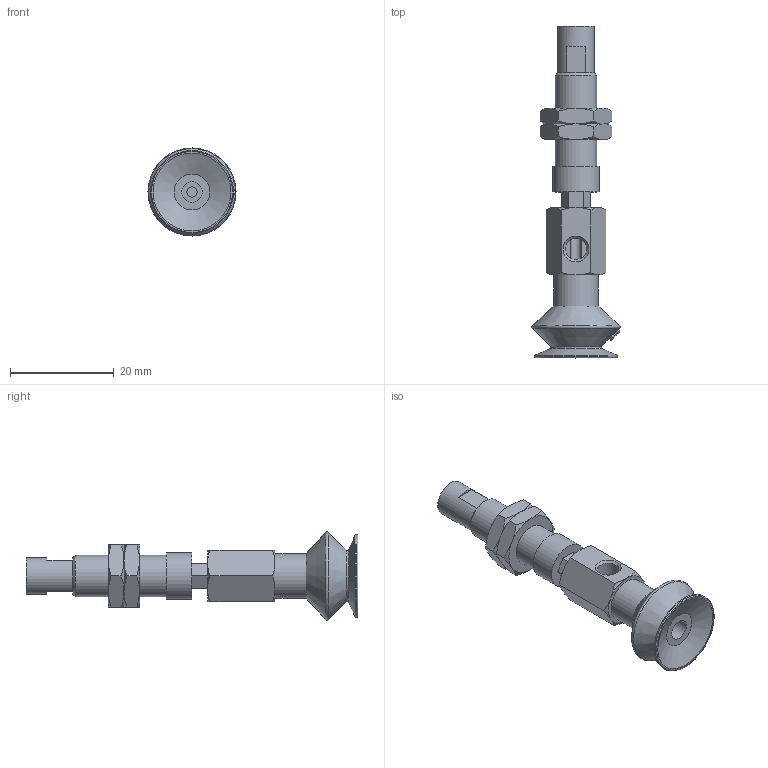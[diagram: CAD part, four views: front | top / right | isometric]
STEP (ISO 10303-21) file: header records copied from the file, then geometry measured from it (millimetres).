
FILE_DESCRIPTION(('STEP AP203'),'1');
FILE_NAME('.stp','2025-04-02T01:16:48',(' '),(' '),'Spatial InterOp 3D',' ',' ');
FILE_SCHEMA(('CONFIG_CONTROL_DESIGN'));
Length unit declared in the file: millimetre
Products named in the file (8): BNABPBYH-15A-3-※; CONNECTOR-15A-3-PB; Nut-15A-S-PB; NAPBTH-15A-3-FBODY; NAPBTH-15A-3-MBODY; BPBG-15A-※; __27; BPBG-15A
Assembly tree (8 placements, depth 3):
  BNABPBYH-15A-3-※
    CONNECTOR-15A-3-PB
    Nut-15A-S-PB  x2
    NAPBTH-15A-3-FBODY
    NAPBTH-15A-3-MBODY
    BPBG-15A-※
      __27
      BPBG-15A
Bounding box: 17 x 64 x 17 mm (x, y, z)
Volume: 4477.7 mm3; surface area: 4848.5 mm2
Topology: 7 solids, 7 shells, 154 faces, 338 edges, 208 vertices
Faces by surface type: plane 64, cone 55, cylinder 16, torus 11, bspline 8
Full cylindrical faces by diameter (mm): 2 x1, 4 x3, 4.134 x2, 5 x1, 6 x2, 7 x1, 7.188 x2, 8 x1, 8.5 x1, 9 x1, 16 x1
Entity records: 5061 total; most frequent: CARTESIAN_POINT 2077, DIRECTION 519, ORIENTED_EDGE 478, EDGE_CURVE 239, AXIS2_PLACEMENT_3D 218, EDGE_LOOP 189, VERTEX_POINT 168, FACE_OUTER_BOUND 157
